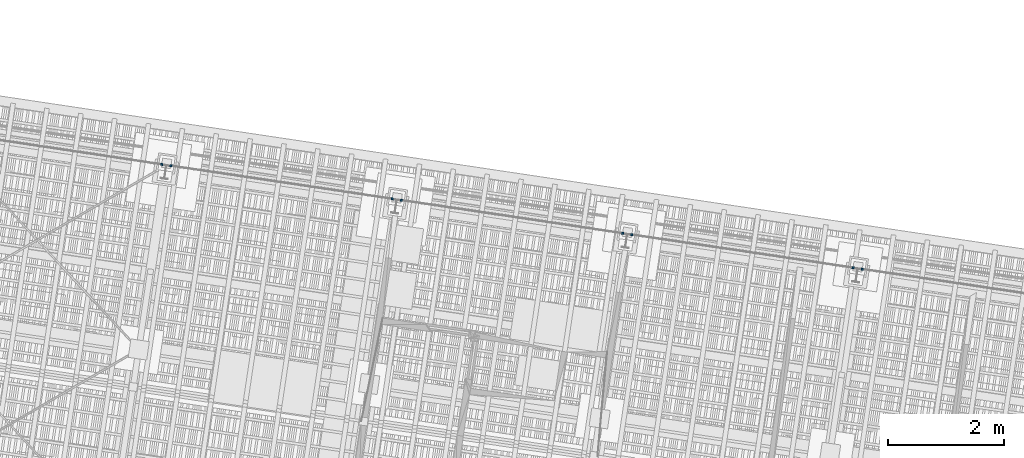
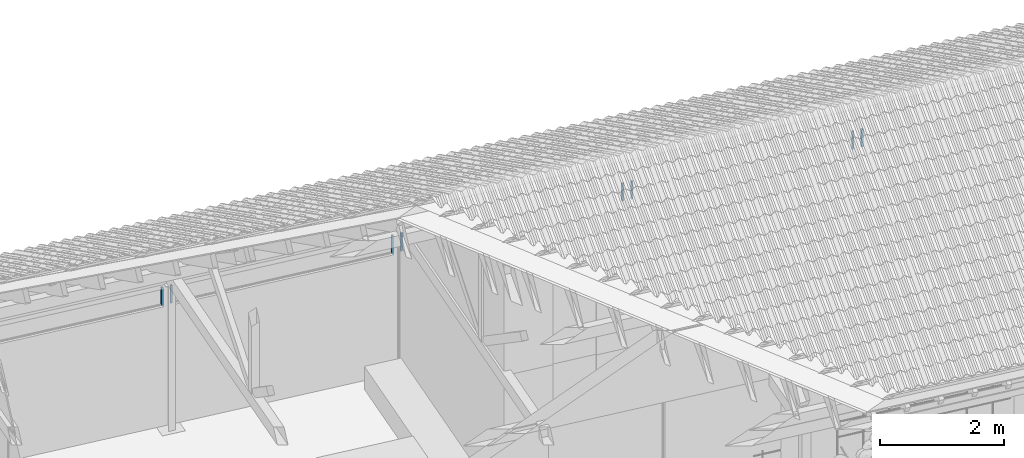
# One storey, part 116 of 131: 8 members.
"""IFC4 building model written with IfcOpenShell, lengths in metres."""

from ifc_helpers import new_model, si_unit, direction, frame, origin_with_axes, place, context, subcontext, project, spatial, rectangle, extrude, material, material_profile, profile_set, profile_usage, type_object, element, save


model = new_model("IFC4")

# Units and contexts
model_context = context("Model", 3, precision=1e-05, world=origin_with_axes(), true_north=direction((0.0, 1.0)))
body_context = subcontext(model_context, "Body", "Model", "MODEL_VIEW")
ifc_project = project(units=[si_unit("VOLUMEUNIT", "CUBIC_METRE"), si_unit("LENGTHUNIT", "METRE"), si_unit("AREAUNIT", "SQUARE_METRE")], contexts=[model_context])

# Site, building, storey
site_placement = place(None, origin_with_axes())
site = spatial("IfcSite", under=ifc_project, at=site_placement, Name="Lares · Rua das Mercês · artigo 4771")
building_placement = place(site_placement, frame((15.0, 9.7, 15.8), z_axis=(0.0, 0.0, 1.0), x_axis=(0.989015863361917, -0.147809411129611, 0.0)))
building = spatial("IfcBuilding", under=site, at=building_placement, Name="Casa Sobreposta")
storey_placement = place(building_placement, origin_with_axes())
storey = spatial("IfcBuildingStorey", under=building, at=storey_placement, Name="00 · Habitação e estacionamento", Elevation=15.8)

# Members
ifc_material = material(Name="Aço pintado / Stahl lackiert", Category="steel")
ifc_material_profile = material_profile(ifc_material, rectangle(XDim=0.035, YDim=0.035))
ifc_profile_set = profile_set([ifc_material_profile], Name="R0.035")
ifc_profile_usage_1 = profile_usage(ifc_profile_set)
member_type = type_object("IfcMemberType", Name="R0.035 / steel", PredefinedType="NOTDEFINED", material=ifc_profile_set)
member_1_placement = place(storey_placement, frame((3.92, 6.4, 2.35), z_axis=(0.0, 0.0, 1.0), x_axis=(1.0, 0.0, 0.0)))
element("IfcMember", 1, at=member_1_placement, inside=storey, type_object=member_type, material=ifc_profile_usage_1, Name="Rasgo norte 1 · montante", context=body_context, shape_type="SweptSolid", body=[
    extrude(rectangle(XDim=0.035, YDim=0.035), origin_with_axes(), (0.0, 0.0, 1.0), 0.35),
])
ifc_profile_usage_2 = profile_usage(ifc_profile_set)
member_2_placement = place(storey_placement, frame((4.08, 6.4, 2.35), z_axis=(0.0, 0.0, 1.0), x_axis=(1.0, 0.0, 0.0)))
element("IfcMember", 2, at=member_2_placement, inside=storey, type_object=member_type, material=ifc_profile_usage_2, Name="Rasgo norte 2 · montante", context=body_context, shape_type="SweptSolid", body=[
    extrude(rectangle(XDim=0.035, YDim=0.035), origin_with_axes(), (0.0, 0.0, 1.0), 0.35),
])
ifc_profile_usage_3 = profile_usage(ifc_profile_set)
member_3_placement = place(storey_placement, frame((7.92, 6.4, 2.35), z_axis=(0.0, 0.0, 1.0), x_axis=(1.0, 0.0, 0.0)))
element("IfcMember", 3, at=member_3_placement, inside=storey, type_object=member_type, material=ifc_profile_usage_3, Name="Rasgo norte 2 · montante", context=body_context, shape_type="SweptSolid", body=[
    extrude(rectangle(XDim=0.035, YDim=0.035), origin_with_axes(), (0.0, 0.0, 1.0), 0.35),
])
ifc_profile_usage_4 = profile_usage(ifc_profile_set)
member_4_placement = place(storey_placement, frame((8.08, 6.4, 2.35), z_axis=(0.0, 0.0, 1.0), x_axis=(1.0, 0.0, 0.0)))
element("IfcMember", 4, at=member_4_placement, inside=storey, type_object=member_type, material=ifc_profile_usage_4, Name="Rasgo norte 3 · montante", context=body_context, shape_type="SweptSolid", body=[
    extrude(rectangle(XDim=0.035, YDim=0.035), origin_with_axes(), (0.0, 0.0, 1.0), 0.35),
])
ifc_profile_usage_5 = profile_usage(ifc_profile_set)
member_5_placement = place(storey_placement, frame((11.92, 6.4, 2.35), z_axis=(0.0, 0.0, 1.0), x_axis=(1.0, 0.0, 0.0)))
element("IfcMember", 5, at=member_5_placement, inside=storey, type_object=member_type, material=ifc_profile_usage_5, Name="Rasgo norte 3 · montante", context=body_context, shape_type="SweptSolid", body=[
    extrude(rectangle(XDim=0.035, YDim=0.035), origin_with_axes(), (0.0, 0.0, 1.0), 0.35),
])
ifc_profile_usage_6 = profile_usage(ifc_profile_set)
member_6_placement = place(storey_placement, frame((12.08, 6.4, 2.35), z_axis=(0.0, 0.0, 1.0), x_axis=(1.0, 0.0, 0.0)))
element("IfcMember", 6, at=member_6_placement, inside=storey, type_object=member_type, material=ifc_profile_usage_6, Name="Rasgo norte 4 · montante", context=body_context, shape_type="SweptSolid", body=[
    extrude(rectangle(XDim=0.035, YDim=0.035), origin_with_axes(), (0.0, 0.0, 1.0), 0.35),
])
ifc_profile_usage_7 = profile_usage(ifc_profile_set)
member_7_placement = place(storey_placement, frame((15.92, 6.4, 2.35), z_axis=(0.0, 0.0, 1.0), x_axis=(1.0, 0.0, 0.0)))
element("IfcMember", 7, at=member_7_placement, inside=storey, type_object=member_type, material=ifc_profile_usage_7, Name="Rasgo norte 4 · montante", context=body_context, shape_type="SweptSolid", body=[
    extrude(rectangle(XDim=0.035, YDim=0.035), origin_with_axes(), (0.0, 0.0, 1.0), 0.35),
])
ifc_profile_usage_8 = profile_usage(ifc_profile_set)
member_8_placement = place(storey_placement, frame((16.08, 6.4, 2.35), z_axis=(0.0, 0.0, 1.0), x_axis=(1.0, 0.0, 0.0)))
element("IfcMember", 8, at=member_8_placement, inside=storey, type_object=member_type, material=ifc_profile_usage_8, Name="Rasgo norte 5 · montante", context=body_context, shape_type="SweptSolid", body=[
    extrude(rectangle(XDim=0.035, YDim=0.035), origin_with_axes(), (0.0, 0.0, 1.0), 0.35),
])

save(model, "model.ifc")
